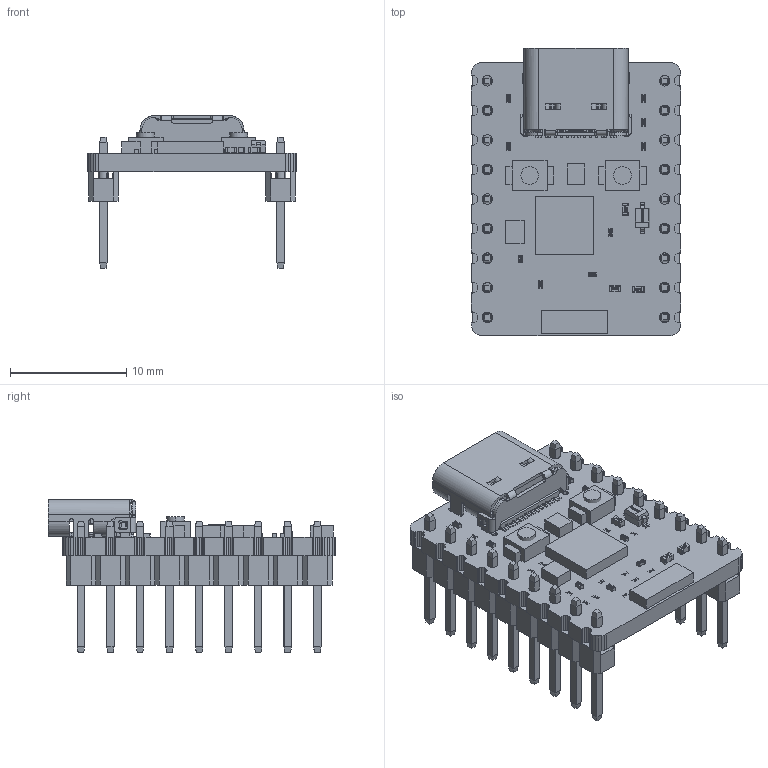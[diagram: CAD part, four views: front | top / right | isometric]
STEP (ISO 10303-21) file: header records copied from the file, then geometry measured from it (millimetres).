
FILE_DESCRIPTION((''),'2;1');
FILE_NAME('ESP32-C6-ZERO_ASM','2024-05-14T11:22:38',('xiaojisheng'),(''),'CREO PARAMETRIC BY PTC INC, 2021063','CREO PARAMETRIC BY PTC INC, 2021063','');
FILE_SCHEMA(('CONFIG_CONTROL_DESIGN','SHAPE_APPEARANCE_LAYERS_GROUPS'));
Products named in the file (86): BOARD; USER_LIBRARY-RES_0603-0201_1; USER_LIBRARY-RES_0603-0201_2; USER_LIBRARY-RES_0603-0201_3; USER_LIBRARY-RES_0603-0201_4; USER_LIBRARY-RES_0603-0201_ASM; L_ASM; R1_ASM; EXTRUDED-29178; 907732368_ASM; LED1_ASM; 2_A; 300; _10001; C_0201-1099_AF1_ASM_ASM; C_0201-4408_AF1_ASM_ASM; 3D_MODEL_ASM; C16_ASM; EXTRUDED-51780; 907732240_ASM; Y1_ASM; R5_ASM; R6_ASM; R7_ASM; R4_ASM; R3_ASM; R2_ASM; CYLINDER; 967154856_ASM; EXTRUDED-52493; 907731856_ASM; KEY1_ASM; KEY2_ASM; SOLID-53009; SOLID-143223; SOLID-144338; SOLID-145388; SOLID-146644; SOLID-147831; SOLID-150234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
Assembly tree (110 placements, depth 7):
  ESP32-C6-ZERO_ASM
    PCB_ASM
      BOARD
      L_ASM
        USER_LIBRARY-RES_0603-0201_ASM
          USER_LIBRARY-RES_0603-0201_1
          USER_LIBRARY-RES_0603-0201_2
          USER_LIBRARY-RES_0603-0201_3
          USER_LIBRARY-RES_0603-0201_4
      R1_ASM
        USER_LIBRARY-RES_0603-0201_ASM
          USER_LIBRARY-RES_0603-0201_1
          USER_LIBRARY-RES_0603-0201_2
          USER_LIBRARY-RES_0603-0201_3
          USER_LIBRARY-RES_0603-0201_4
      LED1_ASM
        907732368_ASM
          EXTRUDED-29178
      C16_ASM
        3D_MODEL_ASM
          C_0201-4408_AF1_ASM_ASM
            C_0201-1099_AF1_ASM_ASM
              2_A
              300
              _10001
      Y1_ASM
        907732240_ASM
          EXTRUDED-51780
      R5_ASM
        USER_LIBRARY-RES_0603-0201_ASM
          USER_LIBRARY-RES_0603-0201_1
          USER_LIBRARY-RES_0603-0201_2
          USER_LIBRARY-RES_0603-0201_3
          USER_LIBRARY-RES_0603-0201_4
      R6_ASM
        USER_LIBRARY-RES_0603-0201_ASM
          USER_LIBRARY-RES_0603-0201_1
          USER_LIBRARY-RES_0603-0201_2
          USER_LIBRARY-RES_0603-0201_3
          USER_LIBRARY-RES_0603-0201_4
      R7_ASM
        USER_LIBRARY-RES_0603-0201_ASM
          USER_LIBRARY-RES_0603-0201_1
          USER_LIBRARY-RES_0603-0201_2
          USER_LIBRARY-RES_0603-0201_3
          USER_LIBRARY-RES_0603-0201_4
      R4_ASM
        USER_LIBRARY-RES_0603-0201_ASM
          USER_LIBRARY-RES_0603-0201_1
          USER_LIBRARY-RES_0603-0201_2
          USER_LIBRARY-RES_0603-0201_3
          USER_LIBRARY-RES_0603-0201_4
      R3_ASM
        USER_LIBRARY-RES_0603-0201_ASM
          USER_LIBRARY-RES_0603-0201_1
          USER_LIBRARY-RES_0603-0201_2
          USER_LIBRARY-RES_0603-0201_3
          USER_LIBRARY-RES_0603-0201_4
      R2_ASM
        USER_LIBRARY-RES_0603-0201_ASM
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Bounding box: 18.02 x 24.72 x 13.15 mm (x, y, z)
Volume: 1132.1 mm3; surface area: 3031.8 mm2
Topology: 118 solids, 130 shells, 8559 faces, 22705 edges, 14838 vertices
Faces by surface type: plane 6417, cylinder 1044, extrusion 910, sphere 138, cone 36, torus 12, bspline 2
Entity records: 131621 total; most frequent: CARTESIAN_POINT 26041, ORIENTED_EDGE 19158, DIRECTION 17699, EDGE_CURVE 9579, VECTOR 7741, LINE 7597, VERTEX_POINT 6314, AXIS2_PLACEMENT_3D 4979
